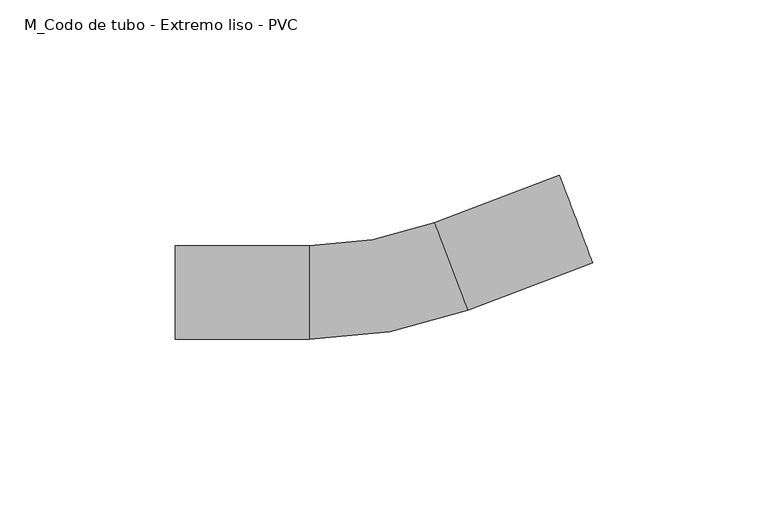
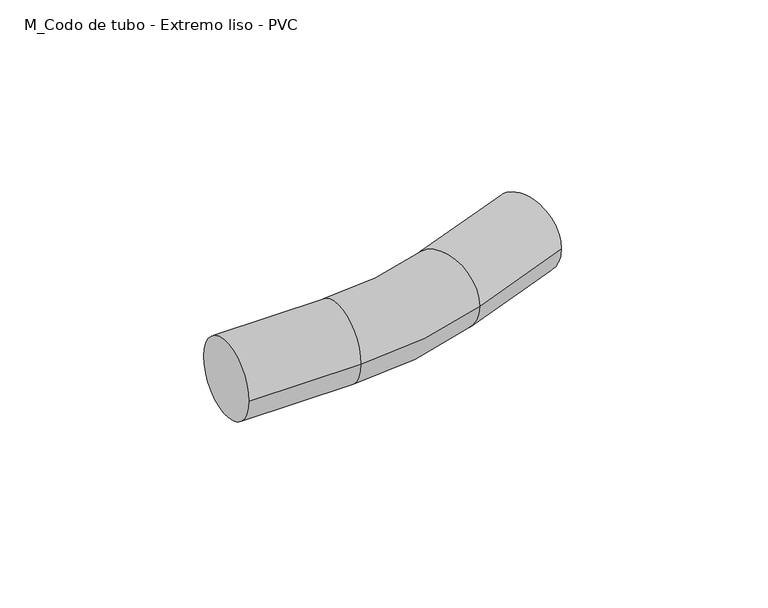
"""IFC4 building model written with IfcOpenShell, lengths in millimetres: cable carrier fitting geometry, M_Codo de tubo - Extremo liso - PVC : CODO ILUMINACION."""

from ifc_helpers import new_model, si_unit, point, frame, origin, place, context, project, spatial, circle_curve, ellipse_curve, trimmed, source, transform, mapped, element, save
from ifc_brep_helpers import plane_surface, cylinder_surface, revolved_surface, advanced_brep


def m_codo_de_tubo_extremo_liso_pvc_31fdfd7b(model_context):
    return source(origin(), model_context, "Body", "AdvancedBrep", [
        advanced_brep(
        [(-58.985608, -13.335, 0.0), (-58.985608, 13.335, 0.0), (-20.885608, -13.335, 0.0), (-20.885608, 13.335, 0.0), (14.8201252, 19.859374, 0.0), (24.2518283, -5.0872064, 0.0), (59.8898004, 8.3866552, 0.0), (50.4580973, 33.3332356, 0.0)],
        [
            (0, 1, circle_curve(frame((-58.985608, 0.0, 0.0), z_axis=(-1.0, 0.0, 0.0), x_axis=(0.0, 1.0, 0.0)), 13.335)),
            (1, 0, circle_curve(frame((-58.985608, 0.0, 0.0), z_axis=(-1.0, 0.0, 0.0), x_axis=(0.0, 1.0, 0.0)), 13.335)),
            (0, 2),
            (2, 3, circle_curve(frame((-20.885608, 0.0, 0.0), z_axis=(-1.0, 0.0, 0.0), x_axis=(0.0, 1.0, 0.0)), 13.335)),
            (3, 1),
            (3, 2, circle_curve(frame((-20.885608, 0.0, 0.0), z_axis=(-1.0, 0.0, 0.0), x_axis=(0.0, 1.0, 0.0)), 13.335)),
            (4, 3, circle_curve(frame((-20.885608, 114.3, 0.0), z_axis=(0.0, 0.0, -1.0), x_axis=(0.0, -1.0, 0.0)), 100.965)),
            (2, 5, circle_curve(frame((-20.885608, 114.3, 0.0), z_axis=(0.0, 0.0, 1.0), x_axis=(0.0, -1.0, 0.0)), 127.635)),
            (5, 4, circle_curve(frame((19.5359768, 7.3860838, 0.0), z_axis=(-0.9353798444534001, -0.3536446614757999, 0.0), x_axis=(-0.3536446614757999, 0.9353798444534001, 0.0)), 13.335)),
            (4, 5, circle_curve(frame((19.5359768, 7.3860838, 0.0), z_axis=(-0.9353798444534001, -0.3536446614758, 0.0), x_axis=(-0.3536446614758, 0.9353798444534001, 0.0)), 13.335)),
            (6, 7, circle_curve(frame((55.1739489, 20.8599454, 0.0), z_axis=(0.9353798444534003, 0.35364466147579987, 0.0), x_axis=(-0.3536446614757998, 0.9353798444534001, 0.0)), 13.335)),
            (7, 6, circle_curve(frame((55.1739489, 20.8599454, 0.0), z_axis=(0.9353798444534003, 0.35364466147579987, 0.0), x_axis=(-0.3536446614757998, 0.9353798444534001, 0.0)), 13.335)),
            (5, 6),
            (7, 4),
        ],
        [
            plane_surface(frame((-58.985608, 0.0, 0.0), z_axis=(-1.0, 0.0, 0.0), x_axis=(0.0, 0.0, 1.0))),
            cylinder_surface(frame((-58.985608, 0.0, 0.0), z_axis=(-1.0, 0.0, 0.0), x_axis=(0.0, 1.0, 0.0)), 13.335),
            revolved_surface(trimmed(ellipse_curve(frame((-20.885608, 0.0, 0.0), z_axis=(-1.0, 0.0, 0.0), x_axis=(0.0, 1.0, 0.0)), 13.335, 13.335), [point((-20.885608, -13.335, 0.0))], [point((-20.885608, 13.335, 0.0))], True, "CARTESIAN"), (-20.885608, 114.3, 0.0), (0.0, 0.0, 1.0)),
            revolved_surface(trimmed(ellipse_curve(frame((-20.885608, 0.0, 0.0), z_axis=(-1.0, 0.0, 0.0), x_axis=(0.0, 1.0, 0.0)), 13.335, 13.335), [point((-20.885608, 13.335, 0.0))], [point((-20.885608, -13.335, 0.0))], True, "CARTESIAN"), (-20.885608, 114.3, 0.0), (0.0, 0.0, 1.0)),
            plane_surface(frame((55.1739489, 20.8599454, 0.0), z_axis=(0.9353798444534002, 0.35364466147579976, 0.0), x_axis=(0.0, 0.0, 1.0))),
            cylinder_surface(frame((19.5359768, 7.3860838, 0.0), z_axis=(-0.9353798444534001, -0.3536446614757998, 0.0), x_axis=(-0.3536446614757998, 0.9353798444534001, 0.0)), 13.335),
        ],
        [
            (0, [[1, 2]]),
            (1, [[-1, 3, 4, 5]]),
            (1, [[-2, -5, 6, -3]]),
            (2, [[7, -4, 8, 9]]),
            (3, [[-8, -6, -7, 10]]),
            (4, [[11, 12]]),
            (5, [[-9, 13, -12, 14]]),
            (5, [[-10, -14, -11, -13]]),
        ],
    ),
    ])


if __name__ == "__main__":
    model = new_model("IFC4")
    model_context = context("Model", 3, world=origin())
    ifc_project = project(units=[si_unit("LENGTHUNIT", "METRE", prefix="MILLI")], contexts=[model_context])
    site = spatial("IfcSite", under=ifc_project)
    building = spatial("IfcBuilding", under=site)
    placement = place(None, origin())
    m_codo_de_tubo_extremo_liso_pvc_shape = m_codo_de_tubo_extremo_liso_pvc_31fdfd7b(model_context)
    element("IfcCableCarrierFitting", 1, ObjectType="M_Codo de tubo - Extremo liso - PVC : CODO ILUMINACION", at=placement, inside=building, context=model_context, shape_type="MappedRepresentation", body=[
        mapped(m_codo_de_tubo_extremo_liso_pvc_shape, transform((0.0, 0.0, 0.0), x_axis=(1.0, 0.0, 0.0), y_axis=(0.0, 1.0, 0.0), z_axis=(0.0, 0.0, 1.0))),
    ])
    save(model, "model.ifc")
